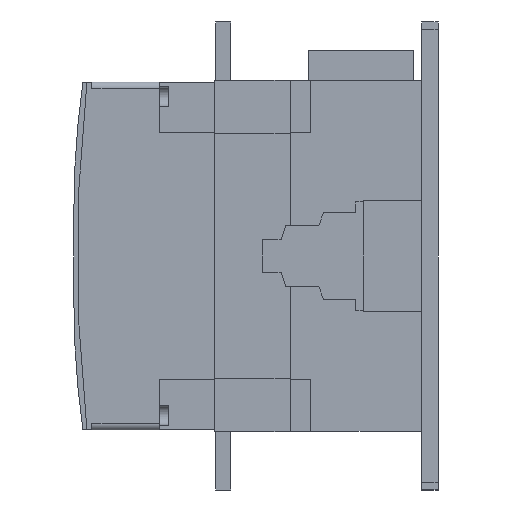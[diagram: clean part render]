
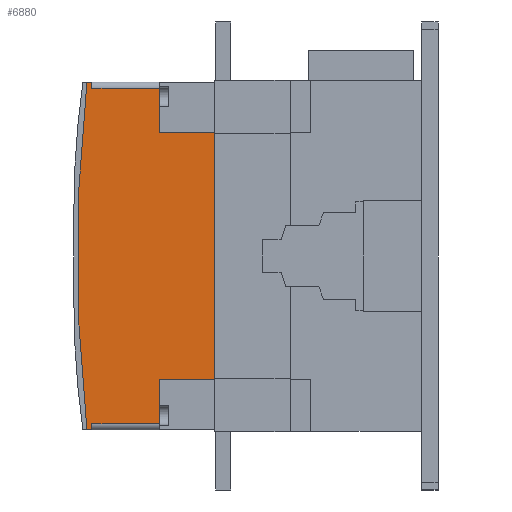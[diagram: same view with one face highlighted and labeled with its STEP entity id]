
A CAD part, left-side view. The second image highlights one B-rep face of the part: STEP entity #6880.
In plain terms, the highlighted planar face has unit normal (-1, 0, 0).
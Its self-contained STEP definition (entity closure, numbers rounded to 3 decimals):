
#164 = VERTEX_POINT ( 'NONE', #3418 ) ;
#281 = EDGE_CURVE ( 'NONE', #5042, #6705, #6451, .T. ) ;
#420 = CARTESIAN_POINT ( 'NONE',  ( -157.5, 218.3, -115. ) ) ;
#555 = LINE ( 'NONE', #10923, #7786 ) ;
#706 = VERTEX_POINT ( 'NONE', #4298 ) ;
#742 = DIRECTION ( 'NONE',  ( 0., 0., 1. ) ) ;
#758 = VECTOR ( 'NONE', #2186, 1000. ) ;
#850 = CARTESIAN_POINT ( 'NONE',  ( -157.5, 173.8, -111.25 ) ) ;
#935 = EDGE_CURVE ( 'NONE', #706, #7113, #10924, .T. ) ;
#1005 = EDGE_CURVE ( 'NONE', #7113, #8009, #555, .T. ) ;
#1245 = DIRECTION ( 'NONE',  ( 0., 1., 0. ) ) ;
#1281 = CARTESIAN_POINT ( 'NONE',  ( -157.5, 221.65, 115. ) ) ;
#1282 = DIRECTION ( 'NONE',  ( 0., -1., 0. ) ) ;
#1396 = DIRECTION ( 'NONE',  ( 0., 0., -1. ) ) ;
#1462 = EDGE_LOOP ( 'NONE', ( #3125, #8970, #5078, #11488, #4642, #6421, #3398, #8468, #1946, #11989, #10029, #6979, #10229, #11714 ) ) ;
#1785 = CARTESIAN_POINT ( 'NONE',  ( -157.5, 173.8, -81.75 ) ) ;
#1946 = ORIENTED_EDGE ( 'NONE', *, *, #281, .F. ) ;
#2011 = CARTESIAN_POINT ( 'NONE',  ( -157.5, 137.3, 81.75 ) ) ;
#2186 = DIRECTION ( 'NONE',  ( 0., -1., 0. ) ) ;
#2213 = CARTESIAN_POINT ( 'NONE',  ( -157.5, 221.65, -115. ) ) ;
#2221 = VERTEX_POINT ( 'NONE', #11792 ) ;
#2361 = EDGE_CURVE ( 'NONE', #8009, #10974, #5772, .T. ) ;
#2438 = CARTESIAN_POINT ( 'NONE',  ( -157.5, 173.8, 81.75 ) ) ;
#2823 = LINE ( 'NONE', #4079, #10063 ) ;
#3047 = LINE ( 'NONE', #3565, #10298 ) ;
#3059 = EDGE_CURVE ( 'NONE', #6511, #6033, #10054, .T. ) ;
#3125 = ORIENTED_EDGE ( 'NONE', *, *, #11607, .T. ) ;
#3135 = CARTESIAN_POINT ( 'NONE',  ( -157.5, 137.3, 111.25 ) ) ;
#3185 = LINE ( 'NONE', #3949, #7908 ) ;
#3350 = VECTOR ( 'NONE', #7969, 1000. ) ;
#3398 = ORIENTED_EDGE ( 'NONE', *, *, #935, .F. ) ;
#3418 = CARTESIAN_POINT ( 'NONE',  ( -157.5, 173.8, -105.5 ) ) ;
#3522 = CARTESIAN_POINT ( 'NONE',  ( -157.5, 218.3, 111.25 ) ) ;
#3565 = CARTESIAN_POINT ( 'NONE',  ( -157.5, 173.8, -111.25 ) ) ;
#3645 = VECTOR ( 'NONE', #1282, 1000. ) ;
#3744 = LINE ( 'NONE', #10713, #8741 ) ;
#3949 = CARTESIAN_POINT ( 'NONE',  ( -157.5, 173.8, -111.25 ) ) ;
#4079 = CARTESIAN_POINT ( 'NONE',  ( -157.5, 218.3, -115. ) ) ;
#4228 = CARTESIAN_POINT ( 'NONE',  ( -157.5, 218.3, -115. ) ) ;
#4298 = CARTESIAN_POINT ( 'NONE',  ( -157.5, 173.8, 111.25 ) ) ;
#4425 = VECTOR ( 'NONE', #7031, 1000. ) ;
#4616 = EDGE_CURVE ( 'NONE', #2221, #11657, #2823, .T. ) ;
#4642 = ORIENTED_EDGE ( 'NONE', *, *, #2361, .F. ) ;
#4979 = CARTESIAN_POINT ( 'NONE',  ( -157.5, 173.8, 81.75 ) ) ;
#5037 = DIRECTION ( 'NONE',  ( 0., -1., 0. ) ) ;
#5042 = VERTEX_POINT ( 'NONE', #7308 ) ;
#5078 = ORIENTED_EDGE ( 'NONE', *, *, #3059, .T. ) ;
#5309 = B_SPLINE_CURVE_WITH_KNOTS ( 'NONE', 2,
 ( #2213, #6943, #1281 ),
 .UNSPECIFIED., .F., .F.,
 ( 3, 3 ),
 ( 0., 1. ),
 .UNSPECIFIED. ) ;
#5354 = VECTOR ( 'NONE', #10703, 1000. ) ;
#5529 = EDGE_CURVE ( 'NONE', #11750, #2221, #11988, .T. ) ;
#5772 = LINE ( 'NONE', #4979, #758 ) ;
#5810 = DIRECTION ( 'NONE',  ( 0., 0., 1. ) ) ;
#6033 = VERTEX_POINT ( 'NONE', #8503 ) ;
#6140 = LINE ( 'NONE', #9834, #3645 ) ;
#6175 = VECTOR ( 'NONE', #1396, 1000. ) ;
#6209 = DIRECTION ( 'NONE',  ( 0., 0., -1. ) ) ;
#6421 = ORIENTED_EDGE ( 'NONE', *, *, #1005, .F. ) ;
#6451 = LINE ( 'NONE', #4228, #3350 ) ;
#6511 = VERTEX_POINT ( 'NONE', #9345 ) ;
#6705 = VERTEX_POINT ( 'NONE', #10580 ) ;
#6767 = EDGE_CURVE ( 'NONE', #11750, #9613, #3744, .T. ) ;
#6880 = ADVANCED_FACE ( 'NONE', ( #9475 ), #10929, .F. ) ;
#6943 = CARTESIAN_POINT ( 'NONE',  ( -157.5, 234.742, -0.089 ) ) ;
#6979 = ORIENTED_EDGE ( 'NONE', *, *, #4616, .F. ) ;
#7031 = DIRECTION ( 'NONE',  ( 0., 0., -1. ) ) ;
#7062 = CARTESIAN_POINT ( 'NONE',  ( -157.5, 173.8, 111.25 ) ) ;
#7113 = VERTEX_POINT ( 'NONE', #9939 ) ;
#7308 = CARTESIAN_POINT ( 'NONE',  ( -157.5, 218.3, 115. ) ) ;
#7311 = DIRECTION ( 'NONE',  ( 0., -1., 0. ) ) ;
#7786 = VECTOR ( 'NONE', #9959, 1000. ) ;
#7834 = EDGE_CURVE ( 'NONE', #6033, #10974, #7844, .T. ) ;
#7844 = LINE ( 'NONE', #3135, #5354 ) ;
#7908 = VECTOR ( 'NONE', #5810, 1000. ) ;
#7969 = DIRECTION ( 'NONE',  ( 0., 0., -1. ) ) ;
#8009 = VERTEX_POINT ( 'NONE', #2438 ) ;
#8468 = ORIENTED_EDGE ( 'NONE', *, *, #11333, .F. ) ;
#8478 = EDGE_CURVE ( 'NONE', #11657, #9685, #5309, .T. ) ;
#8503 = CARTESIAN_POINT ( 'NONE',  ( -157.5, 137.3, -81.75 ) ) ;
#8741 = VECTOR ( 'NONE', #5037, 1000. ) ;
#8929 = CARTESIAN_POINT ( 'NONE',  ( -157.5, 218.3, -111.25 ) ) ;
#8970 = ORIENTED_EDGE ( 'NONE', *, *, #11382, .T. ) ;
#9345 = CARTESIAN_POINT ( 'NONE',  ( -157.5, 173.8, -81.75 ) ) ;
#9468 = CARTESIAN_POINT ( 'NONE',  ( -157.5, 221.65, 115. ) ) ;
#9475 = FACE_OUTER_BOUND ( 'NONE', #1462, .T. ) ;
#9613 = VERTEX_POINT ( 'NONE', #850 ) ;
#9685 = VERTEX_POINT ( 'NONE', #9468 ) ;
#9834 = CARTESIAN_POINT ( 'NONE',  ( -157.5, 218.3, 115. ) ) ;
#9939 = CARTESIAN_POINT ( 'NONE',  ( -157.5, 173.8, 105.5 ) ) ;
#9959 = DIRECTION ( 'NONE',  ( 0., 0., -1. ) ) ;
#10029 = ORIENTED_EDGE ( 'NONE', *, *, #8478, .F. ) ;
#10054 = LINE ( 'NONE', #1785, #12295 ) ;
#10063 = VECTOR ( 'NONE', #1245, 1000. ) ;
#10229 = ORIENTED_EDGE ( 'NONE', *, *, #5529, .F. ) ;
#10298 = VECTOR ( 'NONE', #742, 1000. ) ;
#10580 = CARTESIAN_POINT ( 'NONE',  ( -157.5, 218.3, 111.25 ) ) ;
#10585 = VECTOR ( 'NONE', #7311, 1000. ) ;
#10703 = DIRECTION ( 'NONE',  ( 0., 0., 1. ) ) ;
#10713 = CARTESIAN_POINT ( 'NONE',  ( -157.5, 218.3, -111.25 ) ) ;
#10923 = CARTESIAN_POINT ( 'NONE',  ( -157.5, 173.8, 111.25 ) ) ;
#10924 = LINE ( 'NONE', #7062, #6175 ) ;
#10929 = PLANE ( 'NONE',  #11188 ) ;
#10974 = VERTEX_POINT ( 'NONE', #2011 ) ;
#11188 = AXIS2_PLACEMENT_3D ( 'NONE', #11849, #11905, #6209 ) ;
#11333 = EDGE_CURVE ( 'NONE', #6705, #706, #11494, .T. ) ;
#11382 = EDGE_CURVE ( 'NONE', #164, #6511, #3047, .T. ) ;
#11488 = ORIENTED_EDGE ( 'NONE', *, *, #7834, .T. ) ;
#11494 = LINE ( 'NONE', #3522, #10585 ) ;
#11604 = CARTESIAN_POINT ( 'NONE',  ( -157.5, 221.65, -115. ) ) ;
#11607 = EDGE_CURVE ( 'NONE', #9613, #164, #3185, .T. ) ;
#11657 = VERTEX_POINT ( 'NONE', #11604 ) ;
#11714 = ORIENTED_EDGE ( 'NONE', *, *, #6767, .T. ) ;
#11740 = EDGE_CURVE ( 'NONE', #9685, #5042, #6140, .T. ) ;
#11750 = VERTEX_POINT ( 'NONE', #8929 ) ;
#11792 = CARTESIAN_POINT ( 'NONE',  ( -157.5, 218.3, -115. ) ) ;
#11849 = CARTESIAN_POINT ( 'NONE',  ( -157.5, 218.3, 111.25 ) ) ;
#11905 = DIRECTION ( 'NONE',  ( 1., 0., 0. ) ) ;
#11988 = LINE ( 'NONE', #420, #4425 ) ;
#11989 = ORIENTED_EDGE ( 'NONE', *, *, #11740, .F. ) ;
#12186 = DIRECTION ( 'NONE',  ( 0., -1., 0. ) ) ;
#12295 = VECTOR ( 'NONE', #12186, 1000. ) ;
